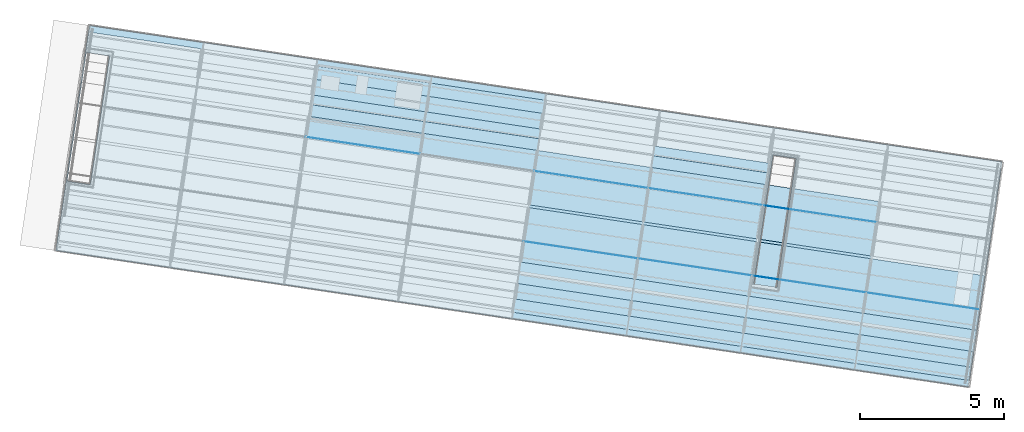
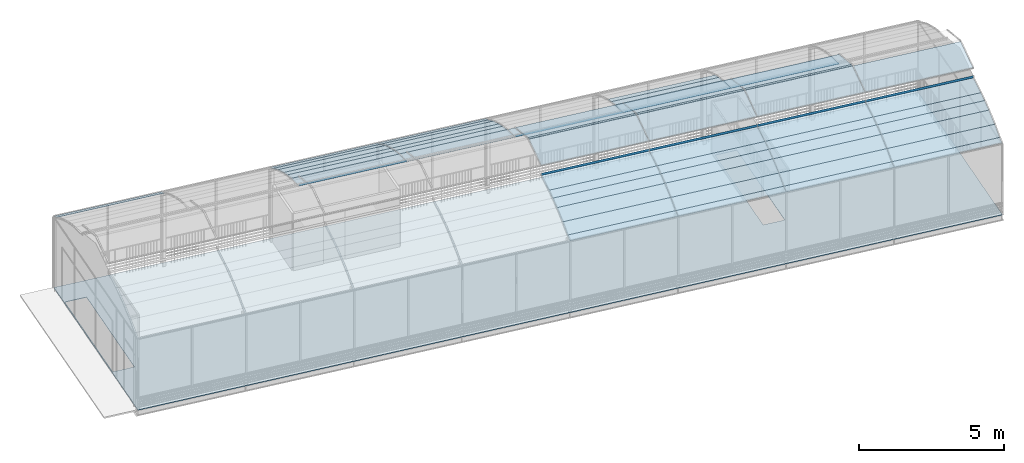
# One storey, part 26 of 34: 60 plates, 1 slab, 2 openings, 1 element without a shape of its own.
"""IFC4 building model written with IfcOpenShell, lengths in metres."""

import ifcopenshell
import ifcopenshell.guid

model = None  # the IFC model being written
_history = None  # IfcOwnerHistory: only IFC2X3 demands one
_inside = {}  # id of a spatial element -> (the spatial element, [elements in it])
_under = {}  # id of a project, library or spatial element -> (it, [spatial elements below it])
_declared = {}  # id of a project -> (the project, [libraries it declares])
_typed = {}  # id of a type object -> (the type object, [elements of that type])
_made_of = {}  # id of a material, layer set ... -> (it, [elements and type objects made of it])


def new_model(schema):
    """Start an empty IFC model of exactly this schema.

    Asked for "IFC4X3", IfcOpenShell would pick the latest addendum, in which some entities
    have other attributes; the version numbers below select the first issue.
    IFC2X3 requires an IfcOwnerHistory on every rooted entity: one is made here for all.
    """
    global model, _history
    if schema == "IFC4X3":
        model = ifcopenshell.file(schema_version=(4, 3, 0, 0))
    else:
        model = ifcopenshell.file(schema=schema)
    _inside.clear()
    _under.clear()
    _declared.clear()
    _typed.clear()
    _made_of.clear()
    _history = None
    if model.schema == "IFC2X3":
        org = make("IfcOrganization", Name="unknown")
        user = make(
            "IfcPersonAndOrganization",
            ThePerson=make("IfcPerson", FamilyName="unknown"),
            TheOrganization=org,
        )
        app = make(
            "IfcApplication",
            ApplicationDeveloper=org,
            Version="unknown",
            ApplicationFullName="unknown",
            ApplicationIdentifier="unknown",
        )
        _history = make(
            "IfcOwnerHistory",
            OwningUser=user,
            OwningApplication=app,
            ChangeAction="ADDED",
            CreationDate=0,
        )
    return model


def make(cls, **values):
    """One entity of the class cls with the attributes given. An attribute that is None is left unset."""
    return model.create_entity(
        cls, **{name: value for name, value in values.items() if value is not None}
    )


def rooted(cls, **values):
    """An entity with a GlobalId (a new one), such as an element, a storey or a relation."""
    return make(cls, GlobalId=ifcopenshell.guid.new(), OwnerHistory=_history, **values)


def si_unit(unit_type, name, prefix=None):
    """IfcSIUnit, for example si_unit("LENGTHUNIT", "METRE", prefix="MILLI")."""
    return make("IfcSIUnit", UnitType=unit_type, Prefix=prefix, Name=name)


def assignment(units):
    """IfcUnitAssignment: the units of a project."""
    return None if units is None else make("IfcUnitAssignment", Units=units)


def point(xyz):
    """IfcCartesianPoint."""
    return None if xyz is None else make("IfcCartesianPoint", Coordinates=xyz)


def direction(xyz):
    """IfcDirection."""
    return None if xyz is None else make("IfcDirection", DirectionRatios=xyz)


def frame(location, z_axis=None, x_axis=None):
    """IfcAxis2Placement3D, a coordinate frame: its origin and axes. An axis left out is left unset."""
    return make(
        "IfcAxis2Placement3D",
        Location=point(location),
        Axis=direction(z_axis),
        RefDirection=direction(x_axis),
    )


def origin_with_axes():
    """The frame at (0, 0, 0) with the z axis (0, 0, 1) and the x axis (1, 0, 0) written out."""
    return frame((0.0, 0.0, 0.0), z_axis=(0.0, 0.0, 1.0), x_axis=(1.0, 0.0, 0.0))


def place(relative_to, where):
    """IfcLocalPlacement: puts the frame where relative to a parent placement (None: the world)."""
    return make(
        "IfcLocalPlacement", PlacementRelTo=relative_to, RelativePlacement=where
    )


def context(
    kind, dimensions, precision=None, world=None, true_north=None, identifier=None
):
    """IfcGeometricRepresentationContext, for example the 3D "Model" context."""
    return make(
        "IfcGeometricRepresentationContext",
        ContextIdentifier=identifier,
        ContextType=kind,
        CoordinateSpaceDimension=dimensions,
        Precision=precision,
        WorldCoordinateSystem=world,
        TrueNorth=true_north,
    )


def subcontext(parent, identifier, kind, view, scale=None):
    """IfcGeometricRepresentationSubContext, for example "Body" below "Model"."""
    return make(
        "IfcGeometricRepresentationSubContext",
        ContextIdentifier=identifier,
        ContextType=kind,
        ParentContext=parent,
        TargetScale=scale,
        TargetView=view,
    )


def project(units=None, contexts=None):
    """IfcProject with its units and contexts."""
    return rooted(
        "IfcProject",
        Name="project",
        RepresentationContexts=contexts,
        UnitsInContext=assignment(units),
    )


def spatial(cls, under=None, at=None, **own):
    """A site, building, storey or space (cls), placed at a placement, below another one or the project."""
    s = rooted(cls, ObjectPlacement=at, **own)
    if under is not None:
        _under.setdefault(under.id(), (under, []))[1].append(s)
    return s


def polyline(points):
    """IfcPolyline through the points."""
    return make("IfcPolyline", Points=[point(p) for p in points])


def outline(outer, holes=None, kind="AREA"):
    """IfcArbitraryClosedProfileDef: a profile drawn as a closed curve; with holes, ...WithVoids."""
    if holes is None:
        return make("IfcArbitraryClosedProfileDef", ProfileType=kind, OuterCurve=outer)
    return make(
        "IfcArbitraryProfileDefWithVoids",
        ProfileType=kind,
        OuterCurve=outer,
        InnerCurves=holes,
    )


def extrude(swept, where, along, depth):
    """IfcExtrudedAreaSolid: the profile swept, set in the frame where, extruded along a direction by depth."""
    return make(
        "IfcExtrudedAreaSolid",
        SweptArea=swept,
        Position=where,
        ExtrudedDirection=direction(along),
        Depth=depth,
    )


def shape(context_of_items, identifier, shape_type, items):
    """IfcShapeRepresentation: the items that make up one representation, for example the "Body"."""
    return make(
        "IfcShapeRepresentation",
        ContextOfItems=context_of_items,
        RepresentationIdentifier=identifier,
        RepresentationType=shape_type,
        Items=items,
    )


def material(Name=None, Category=None):
    """IfcMaterial."""
    return make("IfcMaterial", Name=Name, Category=Category)


def made_of(thing, what):
    """Note that an element or type object is made of a material, layer set ...; save() writes the relation."""
    if what is not None:
        _made_of.setdefault(what.id(), (what, []))[1].append(thing)
    return thing


def element(
    cls,
    number,
    at=None,
    inside=None,
    cuts=None,
    type_object=None,
    material=None,
    context=None,
    identifier="Body",
    shape_type=None,
    held_by="IfcProductDefinitionShape",
    body=None,
    shapes=None,
    **own,
):
    """One element of the class cls, such as IfcWall. Its Tag is "e" and its number.

    at: its placement. inside: the storey or other place that contains it. cuts: it is an
    opening in that element (IfcRelVoidsElement). A single representation is given by context,
    identifier, shape_type and body (its items); several are given by shapes. held_by: the class
    of the entity that holds the representations. save() writes the other relations.
    """
    e = rooted(cls, Tag="e%d" % number, ObjectPlacement=at, **own)
    if body is not None:
        shapes = [shape(context, identifier, shape_type, body)]
    if shapes is not None:
        e.Representation = make(held_by, Representations=shapes)
    if inside is not None:
        _inside.setdefault(inside.id(), (inside, []))[1].append(e)
    if cuts is not None:
        rooted(
            "IfcRelVoidsElement", RelatingBuildingElement=cuts, RelatedOpeningElement=e
        )
    if type_object is not None:
        _typed.setdefault(type_object.id(), (type_object, []))[1].append(e)
    return made_of(e, material)


def aggregate(whole, parts):
    """IfcRelAggregates: a whole, such as a stair, and the parts it consists of."""
    return rooted("IfcRelAggregates", RelatingObject=whole, RelatedObjects=parts)


def save(model, path):
    """Write the relations noted so far, then the file.

    IfcRelAggregates (storeys below a building ...), IfcRelContainedInSpatialStructure (elements
    in a storey), IfcRelDefinesByType, IfcRelAssociatesMaterial and IfcRelDeclares: one each for
    every whole, place, type object, material and project.
    """
    for whole, parts in _under.values():
        aggregate(whole, parts)
    for where, things in _inside.values():
        rooted(
            "IfcRelContainedInSpatialStructure",
            RelatedElements=things,
            RelatingStructure=where,
        )
    for kind, things in _typed.values():
        rooted("IfcRelDefinesByType", RelatedObjects=things, RelatingType=kind)
    for what, things in _made_of.values():
        rooted("IfcRelAssociatesMaterial", RelatedObjects=things, RelatingMaterial=what)
    for by, libraries in _declared.values():
        rooted("IfcRelDeclares", RelatingContext=by, RelatedDefinitions=libraries)
    model.write(path)


model = new_model("IFC4")

# Units and contexts
model_context = context("Model", 3, precision=1e-05, world=origin_with_axes(), true_north=direction((0.0, 1.0)))
body_context = subcontext(model_context, "Body", "Model", "MODEL_VIEW")
ifc_project = project(units=[si_unit("AREAUNIT", "SQUARE_METRE"), si_unit("VOLUMEUNIT", "CUBIC_METRE"), si_unit("LENGTHUNIT", "METRE")], contexts=[model_context])

# Site, building, storey
site_placement = place(None, origin_with_axes())
site = spatial("IfcSite", under=ifc_project, at=site_placement, Name="Lares · Rua das Mercês · artigo 4771")
building_placement = place(site_placement, frame((15.0, 9.7, 14.65), z_axis=(0.0, 0.0, 1.0), x_axis=(0.989015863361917, -0.147809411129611, 0.0)))
building = spatial("IfcBuilding", under=site, at=building_placement, Name="Casa Sobreposta")
storey_placement = place(building_placement, frame((0.0, 0.0, 3.24), z_axis=(0.0, 0.0, 1.0), x_axis=(1.0, 0.0, 0.0)))
storey = spatial("IfcBuildingStorey", under=building, at=storey_placement, Name="01 · Jardim de inverno", Elevation=17.89)

# Slab, openings
ifc_material_1 = material(Name="OSB", Category="wood")
slab_placement = place(storey_placement, frame((0.0, 0.0, -0.032), z_axis=(0.0, 0.0, 1.0), x_axis=(1.0, 0.0, 0.0)))
slab = element("IfcSlab", 1, at=slab_placement, inside=storey, material=ifc_material_1, Name="OSB estrutural · 20 mm", PredefinedType="FLOOR", context=body_context, shape_type="SweptSolid", body=[
    extrude(outline(polyline([(32.0, -1.5), (32.0, 6.4), (0.0, 6.4), (0.0, -1.5), (32.0, -1.5)])), origin_with_axes(), (0.0, 0.0, 1.0), 0.02),
])
opening_1_placement = place(slab_placement, frame((0.0, 0.0, -0.00999999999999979), z_axis=(0.0, 0.0, 1.0), x_axis=(1.0, 0.0, 0.0)))
element("IfcOpeningElement", 2, at=opening_1_placement, cuts=slab, Name="Vão de escada 1 · OSB estrutural · 20 mm", PredefinedType="OPENING", context=body_context, shape_type="SweptSolid", body=[
    extrude(outline(polyline([(0.04, 0.9475), (0.84, 0.9475), (0.84, 5.4525), (0.04, 5.4525), (0.04, 0.9475)])), origin_with_axes(), (0.0, 0.0, 1.0), 0.04),
])
opening_2_placement = place(slab_placement, frame((0.0, 0.0, -0.00999999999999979), z_axis=(0.0, 0.0, 1.0), x_axis=(1.0, 0.0, 0.0)))
element("IfcOpeningElement", 3, at=opening_2_placement, cuts=slab, Name="Vão de escada 2 · OSB estrutural · 20 mm", PredefinedType="OPENING", context=body_context, shape_type="SweptSolid", body=[
    extrude(outline(polyline([(24.91, 0.9475), (24.91, 5.4525), (24.11, 5.4525), (24.11, 0.9475), (24.91, 0.9475)])), origin_with_axes(), (0.0, 0.0, 1.0), 0.04),
])

# Roof, plates
ifc_material_2 = material(Name="Policarbonato alveolar 16 mm · translúcido", Category="plastic")
roof_placement = place(storey_placement, frame((0.0, 0.0, -3.24), z_axis=(0.0, 0.0, 1.0), x_axis=(1.0, 0.0, 0.0)))
roof = element("IfcRoof", 4, at=roof_placement, inside=storey, material=ifc_material_2, Name="Cobertura translúcida da estufa", PredefinedType="BARREL_ROOF")
plate_1_placement = place(roof_placement, frame((16.0, 0.0, 0.0), z_axis=(1.0, 0.0, 0.0), x_axis=(0.0, 1.0, 0.0)))
plate_1 = element("IfcPlate", 5, at=plate_1_placement, material=ifc_material_2, Name="Cobertura 5.1", PredefinedType="SHEET", context=body_context, shape_type="SweptSolid", body=[
    extrude(outline(polyline([(-1.5, 6.23430000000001), (-1.26765509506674, 6.32392631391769), (-1.26765509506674, 6.31592631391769), (-1.5, 6.22630000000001), (-1.5, 6.23430000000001)])), origin_with_axes(), (0.0, 0.0, 1.0), 4.0),
])
plate_2_placement = place(roof_placement, frame((20.0, 0.0, 0.0), z_axis=(1.0, 0.0, 0.0), x_axis=(0.0, 1.0, 0.0)))
plate_2 = element("IfcPlate", 6, at=plate_2_placement, material=ifc_material_2, Name="Cobertura 6.1", PredefinedType="SHEET", context=body_context, shape_type="SweptSolid", body=[
    extrude(outline(polyline([(-1.5, 6.23430000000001), (-1.26765509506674, 6.32392631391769), (-1.26765509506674, 6.31592631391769), (-1.5, 6.22630000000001), (-1.5, 6.23430000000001)])), origin_with_axes(), (0.0, 0.0, 1.0), 4.0),
])
plate_3_placement = place(roof_placement, frame((24.0, 0.0, 0.0), z_axis=(1.0, 0.0, 0.0), x_axis=(0.0, 1.0, 0.0)))
plate_3 = element("IfcPlate", 7, at=plate_3_placement, material=ifc_material_2, Name="Cobertura 7.1", PredefinedType="SHEET", context=body_context, shape_type="SweptSolid", body=[
    extrude(outline(polyline([(-1.5, 6.23430000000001), (-1.26765509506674, 6.32392631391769), (-1.26765509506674, 6.31592631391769), (-1.5, 6.22630000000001), (-1.5, 6.23430000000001)])), origin_with_axes(), (0.0, 0.0, 1.0), 4.0),
])
plate_4_placement = place(roof_placement, frame((28.0, 0.0, 0.0), z_axis=(1.0, 0.0, 0.0), x_axis=(0.0, 1.0, 0.0)))
plate_4 = element("IfcPlate", 8, at=plate_4_placement, material=ifc_material_2, Name="Cobertura 8.1", PredefinedType="SHEET", context=body_context, shape_type="SweptSolid", body=[
    extrude(outline(polyline([(-1.5, 6.23430000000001), (-1.26765509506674, 6.32392631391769), (-1.26765509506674, 6.31592631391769), (-1.5, 6.22630000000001), (-1.5, 6.23430000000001)])), origin_with_axes(), (0.0, 0.0, 1.0), 4.0),
])
plate_5_placement = place(roof_placement, frame((16.0, 0.0, 0.0), z_axis=(1.0, 0.0, 0.0), x_axis=(0.0, 1.0, 0.0)))
plate_5 = element("IfcPlate", 9, at=plate_5_placement, material=ifc_material_2, Name="Cobertura 5.2", PredefinedType="SHEET", context=body_context, shape_type="SweptSolid", body=[
    extrude(outline(polyline([(-1.26765509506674, 6.32392631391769), (-0.803062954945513, 6.57613537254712), (-0.803062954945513, 6.56813537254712), (-1.26765509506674, 6.31592631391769), (-1.26765509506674, 6.32392631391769)])), origin_with_axes(), (0.0, 0.0, 1.0), 4.0),
])
plate_6_placement = place(roof_placement, frame((20.0, 0.0, 0.0), z_axis=(1.0, 0.0, 0.0), x_axis=(0.0, 1.0, 0.0)))
plate_6 = element("IfcPlate", 10, at=plate_6_placement, material=ifc_material_2, Name="Cobertura 6.2", PredefinedType="SHEET", context=body_context, shape_type="SweptSolid", body=[
    extrude(outline(polyline([(-1.26765509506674, 6.32392631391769), (-0.803062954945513, 6.57613537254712), (-0.803062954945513, 6.56813537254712), (-1.26765509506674, 6.31592631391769), (-1.26765509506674, 6.32392631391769)])), origin_with_axes(), (0.0, 0.0, 1.0), 4.0),
])
plate_7_placement = place(roof_placement, frame((24.0, 0.0, 0.0), z_axis=(1.0, 0.0, 0.0), x_axis=(0.0, 1.0, 0.0)))
plate_7 = element("IfcPlate", 11, at=plate_7_placement, material=ifc_material_2, Name="Cobertura 7.2", PredefinedType="SHEET", context=body_context, shape_type="SweptSolid", body=[
    extrude(outline(polyline([(-1.26765509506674, 6.32392631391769), (-0.803062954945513, 6.57613537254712), (-0.803062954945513, 6.56813537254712), (-1.26765509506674, 6.31592631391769), (-1.26765509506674, 6.32392631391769)])), origin_with_axes(), (0.0, 0.0, 1.0), 4.0),
])
plate_8_placement = place(roof_placement, frame((28.0, 0.0, 0.0), z_axis=(1.0, 0.0, 0.0), x_axis=(0.0, 1.0, 0.0)))
plate_8 = element("IfcPlate", 12, at=plate_8_placement, material=ifc_material_2, Name="Cobertura 8.2", PredefinedType="SHEET", context=body_context, shape_type="SweptSolid", body=[
    extrude(outline(polyline([(-1.26765509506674, 6.32392631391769), (-0.803062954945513, 6.57613537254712), (-0.803062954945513, 6.56813537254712), (-1.26765509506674, 6.31592631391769), (-1.26765509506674, 6.32392631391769)])), origin_with_axes(), (0.0, 0.0, 1.0), 4.0),
])
plate_9_placement = place(roof_placement, frame((16.0, 0.0, 0.0), z_axis=(1.0, 0.0, 0.0), x_axis=(0.0, 1.0, 0.0)))
plate_9 = element("IfcPlate", 13, at=plate_9_placement, material=ifc_material_2, Name="Cobertura 5.3", PredefinedType="SHEET", context=body_context, shape_type="SweptSolid", body=[
    extrude(outline(polyline([(-0.803062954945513, 6.57613537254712), (-0.256488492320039, 6.81570306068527), (-0.256488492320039, 6.80770306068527), (-0.803062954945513, 6.56813537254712), (-0.803062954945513, 6.57613537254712)])), origin_with_axes(), (0.0, 0.0, 1.0), 4.0),
])
plate_10_placement = place(roof_placement, frame((20.0, 0.0, 0.0), z_axis=(1.0, 0.0, 0.0), x_axis=(0.0, 1.0, 0.0)))
plate_10 = element("IfcPlate", 14, at=plate_10_placement, material=ifc_material_2, Name="Cobertura 6.3", PredefinedType="SHEET", context=body_context, shape_type="SweptSolid", body=[
    extrude(outline(polyline([(-0.803062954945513, 6.57613537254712), (-0.256488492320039, 6.81570306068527), (-0.256488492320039, 6.80770306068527), (-0.803062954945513, 6.56813537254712), (-0.803062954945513, 6.57613537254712)])), origin_with_axes(), (0.0, 0.0, 1.0), 4.0),
])
plate_11_placement = place(roof_placement, frame((24.0, 0.0, 0.0), z_axis=(1.0, 0.0, 0.0), x_axis=(0.0, 1.0, 0.0)))
plate_11 = element("IfcPlate", 15, at=plate_11_placement, material=ifc_material_2, Name="Cobertura 7.3", PredefinedType="SHEET", context=body_context, shape_type="SweptSolid", body=[
    extrude(outline(polyline([(-0.803062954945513, 6.57613537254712), (-0.256488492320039, 6.81570306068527), (-0.256488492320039, 6.80770306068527), (-0.803062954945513, 6.56813537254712), (-0.803062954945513, 6.57613537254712)])), origin_with_axes(), (0.0, 0.0, 1.0), 4.0),
])
plate_12_placement = place(roof_placement, frame((28.0, 0.0, 0.0), z_axis=(1.0, 0.0, 0.0), x_axis=(0.0, 1.0, 0.0)))
plate_12 = element("IfcPlate", 16, at=plate_12_placement, material=ifc_material_2, Name="Cobertura 8.3", PredefinedType="SHEET", context=body_context, shape_type="SweptSolid", body=[
    extrude(outline(polyline([(-0.803062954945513, 6.57613537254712), (-0.256488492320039, 6.81570306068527), (-0.256488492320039, 6.80770306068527), (-0.803062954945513, 6.56813537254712), (-0.803062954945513, 6.57613537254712)])), origin_with_axes(), (0.0, 0.0, 1.0), 4.0),
])
plate_13_placement = place(roof_placement, frame((16.0, 0.0, 0.0), z_axis=(1.0, 0.0, 0.0), x_axis=(0.0, 1.0, 0.0)))
plate_13 = element("IfcPlate", 17, at=plate_13_placement, material=ifc_material_2, Name="Cobertura 5.4", PredefinedType="SHEET", context=body_context, shape_type="SweptSolid", body=[
    extrude(outline(polyline([(-0.256488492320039, 6.81570306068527), (0.142348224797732, 6.95669813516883), (0.142348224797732, 6.94869813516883), (-0.256488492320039, 6.80770306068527), (-0.256488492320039, 6.81570306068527)])), origin_with_axes(), (0.0, 0.0, 1.0), 4.0),
])
plate_14_placement = place(roof_placement, frame((20.0, 0.0, 0.0), z_axis=(1.0, 0.0, 0.0), x_axis=(0.0, 1.0, 0.0)))
plate_14 = element("IfcPlate", 18, at=plate_14_placement, material=ifc_material_2, Name="Cobertura 6.4", PredefinedType="SHEET", context=body_context, shape_type="SweptSolid", body=[
    extrude(outline(polyline([(-0.256488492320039, 6.81570306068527), (0.142348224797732, 6.95669813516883), (0.142348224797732, 6.94869813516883), (-0.256488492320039, 6.80770306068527), (-0.256488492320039, 6.81570306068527)])), origin_with_axes(), (0.0, 0.0, 1.0), 4.0),
])
plate_15_placement = place(roof_placement, frame((24.0, 0.0, 0.0), z_axis=(1.0, 0.0, 0.0), x_axis=(0.0, 1.0, 0.0)))
plate_15 = element("IfcPlate", 19, at=plate_15_placement, material=ifc_material_2, Name="Cobertura 7.4", PredefinedType="SHEET", context=body_context, shape_type="SweptSolid", body=[
    extrude(outline(polyline([(-0.256488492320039, 6.81570306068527), (0.142348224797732, 6.95669813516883), (0.142348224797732, 6.94869813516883), (-0.256488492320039, 6.80770306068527), (-0.256488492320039, 6.81570306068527)])), origin_with_axes(), (0.0, 0.0, 1.0), 4.0),
])
plate_16_placement = place(roof_placement, frame((28.0, 0.0, 0.0), z_axis=(1.0, 0.0, 0.0), x_axis=(0.0, 1.0, 0.0)))
plate_16 = element("IfcPlate", 20, at=plate_16_placement, material=ifc_material_2, Name="Cobertura 8.4", PredefinedType="SHEET", context=body_context, shape_type="SweptSolid", body=[
    extrude(outline(polyline([(-0.256488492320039, 6.81570306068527), (0.142348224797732, 6.95669813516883), (0.142348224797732, 6.94869813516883), (-0.256488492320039, 6.80770306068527), (-0.256488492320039, 6.81570306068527)])), origin_with_axes(), (0.0, 0.0, 1.0), 4.0),
])
plate_17_placement = place(roof_placement, frame((16.0, 0.0, 0.0), z_axis=(1.0, 0.0, 0.0), x_axis=(0.0, 1.0, 0.0)))
plate_17 = element("IfcPlate", 21, at=plate_17_placement, material=ifc_material_2, Name="Cobertura 5.5", PredefinedType="SHEET", context=body_context, shape_type="SweptSolid", body=[
    extrude(outline(polyline([(0.142348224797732, 6.95669813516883), (0.493171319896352, 7.05943931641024), (0.493171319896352, 7.05143931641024), (0.142348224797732, 6.94869813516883), (0.142348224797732, 6.95669813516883)])), origin_with_axes(), (0.0, 0.0, 1.0), 4.0),
])
plate_18_placement = place(roof_placement, frame((20.0, 0.0, 0.0), z_axis=(1.0, 0.0, 0.0), x_axis=(0.0, 1.0, 0.0)))
plate_18 = element("IfcPlate", 22, at=plate_18_placement, material=ifc_material_2, Name="Cobertura 6.5", PredefinedType="SHEET", context=body_context, shape_type="SweptSolid", body=[
    extrude(outline(polyline([(0.142348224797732, 6.95669813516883), (0.493171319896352, 7.05943931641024), (0.493171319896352, 7.05143931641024), (0.142348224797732, 6.94869813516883), (0.142348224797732, 6.95669813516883)])), origin_with_axes(), (0.0, 0.0, 1.0), 4.0),
])
plate_19_placement = place(roof_placement, frame((24.0, 0.0, 0.0), z_axis=(1.0, 0.0, 0.0), x_axis=(0.0, 1.0, 0.0)))
plate_19 = element("IfcPlate", 23, at=plate_19_placement, material=ifc_material_2, Name="Cobertura 7.5", PredefinedType="SHEET", context=body_context, shape_type="SweptSolid", body=[
    extrude(outline(polyline([(0.142348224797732, 6.95669813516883), (0.493171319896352, 7.05943931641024), (0.493171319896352, 7.05143931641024), (0.142348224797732, 6.94869813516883), (0.142348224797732, 6.95669813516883)])), origin_with_axes(), (0.0, 0.0, 1.0), 4.0),
])
plate_20_placement = place(roof_placement, frame((28.0, 0.0, 0.0), z_axis=(1.0, 0.0, 0.0), x_axis=(0.0, 1.0, 0.0)))
plate_20 = element("IfcPlate", 24, at=plate_20_placement, material=ifc_material_2, Name="Cobertura 8.5", PredefinedType="SHEET", context=body_context, shape_type="SweptSolid", body=[
    extrude(outline(polyline([(0.142348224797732, 6.95669813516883), (0.493171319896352, 7.05943931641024), (0.493171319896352, 7.05143931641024), (0.142348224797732, 6.94869813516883), (0.142348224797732, 6.95669813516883)])), origin_with_axes(), (0.0, 0.0, 1.0), 4.0),
])
plate_21_placement = place(roof_placement, frame((16.0, 0.0, 0.0), z_axis=(1.0, 0.0, 0.0), x_axis=(0.0, 1.0, 0.0)))
plate_21 = element("IfcPlate", 25, at=plate_21_placement, material=ifc_material_2, Name="Cobertura 5.6", PredefinedType="SHEET", context=body_context, shape_type="SweptSolid", body=[
    extrude(outline(polyline([(0.493171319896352, 7.05943931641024), (1.21440957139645, 7.21329402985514), (1.21440957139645, 7.20529402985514), (0.493171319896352, 7.05143931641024), (0.493171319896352, 7.05943931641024)])), origin_with_axes(), (0.0, 0.0, 1.0), 4.0),
])
plate_22_placement = place(roof_placement, frame((20.0, 0.0, 0.0), z_axis=(1.0, 0.0, 0.0), x_axis=(0.0, 1.0, 0.0)))
plate_22 = element("IfcPlate", 26, at=plate_22_placement, material=ifc_material_2, Name="Cobertura 6.6", PredefinedType="SHEET", context=body_context, shape_type="SweptSolid", body=[
    extrude(outline(polyline([(0.493171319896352, 7.05943931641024), (1.21440957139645, 7.21329402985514), (1.21440957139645, 7.20529402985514), (0.493171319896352, 7.05143931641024), (0.493171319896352, 7.05943931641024)])), origin_with_axes(), (0.0, 0.0, 1.0), 4.0),
])
plate_23_placement = place(roof_placement, frame((24.0, 0.0, 0.0), z_axis=(1.0, 0.0, 0.0), x_axis=(0.0, 1.0, 0.0)))
plate_23 = element("IfcPlate", 27, at=plate_23_placement, material=ifc_material_2, Name="Cobertura 7.6", PredefinedType="SHEET", context=body_context, shape_type="SweptSolid", body=[
    extrude(outline(polyline([(0.493171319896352, 7.05943931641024), (1.21440957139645, 7.21329402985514), (1.21440957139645, 7.20529402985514), (0.493171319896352, 7.05143931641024), (0.493171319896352, 7.05943931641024)])), origin_with_axes(), (0.0, 0.0, 1.0), 4.0),
])
plate_24_placement = place(roof_placement, frame((28.0, 0.0, 0.0), z_axis=(1.0, 0.0, 0.0), x_axis=(0.0, 1.0, 0.0)))
plate_24 = element("IfcPlate", 28, at=plate_24_placement, material=ifc_material_2, Name="Cobertura 8.6", PredefinedType="SHEET", context=body_context, shape_type="SweptSolid", body=[
    extrude(outline(polyline([(0.493171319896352, 7.05943931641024), (1.21440957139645, 7.21329402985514), (1.21440957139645, 7.20529402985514), (0.493171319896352, 7.05143931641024), (0.493171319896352, 7.05943931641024)])), origin_with_axes(), (0.0, 0.0, 1.0), 4.0),
])
plate_25_placement = place(roof_placement, frame((16.0, 0.0, 0.0), z_axis=(1.0, 0.0, 0.0), x_axis=(0.0, 1.0, 0.0)))
plate_25 = element("IfcPlate", 29, at=plate_25_placement, material=ifc_material_2, Name="Cobertura 5.7", PredefinedType="SHEET", context=body_context, shape_type="SweptSolid", body=[
    extrude(outline(polyline([(1.21440957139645, 7.21329402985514), (1.22042020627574, 7.30067689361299), (1.22042020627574, 7.29267689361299), (1.21440957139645, 7.20529402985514), (1.21440957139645, 7.21329402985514)])), origin_with_axes(), (0.0, 0.0, 1.0), 4.0),
])
plate_26_placement = place(roof_placement, frame((20.0, 0.0, 0.0), z_axis=(1.0, 0.0, 0.0), x_axis=(0.0, 1.0, 0.0)))
plate_26 = element("IfcPlate", 30, at=plate_26_placement, material=ifc_material_2, Name="Cobertura 6.7", PredefinedType="SHEET", context=body_context, shape_type="SweptSolid", body=[
    extrude(outline(polyline([(1.21440957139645, 7.21329402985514), (1.22042020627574, 7.30067689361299), (1.22042020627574, 7.29267689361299), (1.21440957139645, 7.20529402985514), (1.21440957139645, 7.21329402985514)])), origin_with_axes(), (0.0, 0.0, 1.0), 4.0),
])
plate_27_placement = place(roof_placement, frame((24.0, 0.0, 0.0), z_axis=(1.0, 0.0, 0.0), x_axis=(0.0, 1.0, 0.0)))
plate_27 = element("IfcPlate", 31, at=plate_27_placement, material=ifc_material_2, Name="Cobertura 7.7", PredefinedType="SHEET", context=body_context, shape_type="SweptSolid", body=[
    extrude(outline(polyline([(1.21440957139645, 7.21329402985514), (1.22042020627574, 7.30067689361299), (1.22042020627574, 7.29267689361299), (1.21440957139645, 7.20529402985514), (1.21440957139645, 7.21329402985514)])), origin_with_axes(), (0.0, 0.0, 1.0), 4.0),
])
plate_28_placement = place(roof_placement, frame((28.0, 0.0, 0.0), z_axis=(1.0, 0.0, 0.0), x_axis=(0.0, 1.0, 0.0)))
plate_28 = element("IfcPlate", 32, at=plate_28_placement, material=ifc_material_2, Name="Cobertura 8.7", PredefinedType="SHEET", context=body_context, shape_type="SweptSolid", body=[
    extrude(outline(polyline([(1.21440957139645, 7.21329402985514), (1.22042020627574, 7.30067689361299), (1.22042020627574, 7.29267689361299), (1.21440957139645, 7.20529402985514), (1.21440957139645, 7.21329402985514)])), origin_with_axes(), (0.0, 0.0, 1.0), 4.0),
])
plate_29_placement = place(roof_placement, frame((16.0, 0.0, 0.0), z_axis=(1.0, 0.0, 0.0), x_axis=(0.0, 1.0, 0.0)))
plate_29 = element("IfcPlate", 33, at=plate_29_placement, material=ifc_material_2, Name="Cobertura 5.8", PredefinedType="SHEET", context=body_context, shape_type="SweptSolid", body=[
    extrude(outline(polyline([(1.22042020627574, 7.62067689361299), (2.40274082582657, 7.96518238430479), (2.40274082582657, 7.95718238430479), (1.22042020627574, 7.61267689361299), (1.22042020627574, 7.62067689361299)])), origin_with_axes(), (0.0, 0.0, 1.0), 4.0),
])
plate_30_placement = place(roof_placement, frame((20.0, 0.0, 0.0), z_axis=(1.0, 0.0, 0.0), x_axis=(0.0, 1.0, 0.0)))
plate_30 = element("IfcPlate", 34, at=plate_30_placement, material=ifc_material_2, Name="Cobertura 6.8", PredefinedType="SHEET", context=body_context, shape_type="SweptSolid", body=[
    extrude(outline(polyline([(1.22042020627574, 7.62067689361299), (2.40274082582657, 7.96518238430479), (2.40274082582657, 7.95718238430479), (1.22042020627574, 7.61267689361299), (1.22042020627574, 7.62067689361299)])), origin_with_axes(), (0.0, 0.0, 1.0), 4.0),
])
plate_31_placement = place(roof_placement, frame((24.0, 0.0, 0.0), z_axis=(1.0, 0.0, 0.0), x_axis=(0.0, 1.0, 0.0)))
plate_31 = element("IfcPlate", 35, at=plate_31_placement, material=ifc_material_2, Name="Cobertura 7.8", PredefinedType="SHEET", context=body_context, shape_type="SweptSolid", body=[
    extrude(outline(polyline([(1.22042020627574, 7.62067689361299), (2.40274082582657, 7.96518238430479), (2.40274082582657, 7.95718238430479), (1.22042020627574, 7.61267689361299), (1.22042020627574, 7.62067689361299)])), origin_with_axes(), (0.0, 0.0, 1.0), 4.0),
])
plate_32_placement = place(roof_placement, frame((28.0, 0.0, 0.0), z_axis=(1.0, 0.0, 0.0), x_axis=(0.0, 1.0, 0.0)))
plate_32 = element("IfcPlate", 36, at=plate_32_placement, material=ifc_material_2, Name="Cobertura 8.8", PredefinedType="SHEET", context=body_context, shape_type="SweptSolid", body=[
    extrude(outline(polyline([(1.22042020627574, 7.62067689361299), (2.40274082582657, 7.96518238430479), (2.40274082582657, 7.95718238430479), (1.22042020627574, 7.61267689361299), (1.22042020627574, 7.62067689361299)])), origin_with_axes(), (0.0, 0.0, 1.0), 4.0),
])
plate_33_placement = place(roof_placement, frame((16.0, 0.0, 0.0), z_axis=(1.0, 0.0, 0.0), x_axis=(0.0, 1.0, 0.0)))
plate_33 = element("IfcPlate", 37, at=plate_33_placement, material=ifc_material_2, Name="Cobertura 5.9", PredefinedType="SHEET", context=body_context, shape_type="SweptSolid", body=[
    extrude(outline(polyline([(2.40274082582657, 7.96518238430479), (2.49770027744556, 7.96518238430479), (2.49770027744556, 7.95718238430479), (2.40274082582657, 7.95718238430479), (2.40274082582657, 7.96518238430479)])), origin_with_axes(), (0.0, 0.0, 1.0), 4.0),
])
plate_34_placement = place(roof_placement, frame((20.0, 0.0, 0.0), z_axis=(1.0, 0.0, 0.0), x_axis=(0.0, 1.0, 0.0)))
plate_34 = element("IfcPlate", 38, at=plate_34_placement, material=ifc_material_2, Name="Cobertura 6.9", PredefinedType="SHEET", context=body_context, shape_type="SweptSolid", body=[
    extrude(outline(polyline([(2.40274082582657, 7.96518238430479), (2.49770027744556, 7.96518238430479), (2.49770027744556, 7.95718238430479), (2.40274082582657, 7.95718238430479), (2.40274082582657, 7.96518238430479)])), origin_with_axes(), (0.0, 0.0, 1.0), 4.0),
])
plate_35_placement = place(roof_placement, frame((24.0, 0.0, 0.0), z_axis=(1.0, 0.0, 0.0), x_axis=(0.0, 1.0, 0.0)))
plate_35 = element("IfcPlate", 39, at=plate_35_placement, material=ifc_material_2, Name="Cobertura 7.9", PredefinedType="SHEET", context=body_context, shape_type="SweptSolid", body=[
    extrude(outline(polyline([(2.40274082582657, 7.96518238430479), (2.49770027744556, 7.96518238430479), (2.49770027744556, 7.95718238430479), (2.40274082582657, 7.95718238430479), (2.40274082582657, 7.96518238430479)])), origin_with_axes(), (0.0, 0.0, 1.0), 4.0),
])
plate_36_placement = place(roof_placement, frame((16.0, 0.0, 0.0), z_axis=(1.0, 0.0, 0.0), x_axis=(0.0, 1.0, 0.0)))
plate_36 = element("IfcPlate", 40, at=plate_36_placement, material=ifc_material_2, Name="Cobertura 5.10", PredefinedType="SHEET", context=body_context, shape_type="SweptSolid", body=[
    extrude(outline(polyline([(2.49770027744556, 7.96518238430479), (3.68002089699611, 7.62067689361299), (3.68002089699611, 7.61267689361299), (2.49770027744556, 7.95718238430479), (2.49770027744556, 7.96518238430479)])), origin_with_axes(), (0.0, 0.0, 1.0), 4.0),
])
plate_37_placement = place(roof_placement, frame((20.0, 0.0, 0.0), z_axis=(1.0, 0.0, 0.0), x_axis=(0.0, 1.0, 0.0)))
plate_37 = element("IfcPlate", 41, at=plate_37_placement, material=ifc_material_2, Name="Cobertura 6.10", PredefinedType="SHEET", context=body_context, shape_type="SweptSolid", body=[
    extrude(outline(polyline([(2.49770027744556, 7.96518238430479), (3.68002089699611, 7.62067689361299), (3.68002089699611, 7.61267689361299), (2.49770027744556, 7.95718238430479), (2.49770027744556, 7.96518238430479)])), origin_with_axes(), (0.0, 0.0, 1.0), 4.0),
])
plate_38_placement = place(roof_placement, frame((24.0, 0.0, 0.0), z_axis=(1.0, 0.0, 0.0), x_axis=(0.0, 1.0, 0.0)))
plate_38 = element("IfcPlate", 42, at=plate_38_placement, material=ifc_material_2, Name="Cobertura 7.10", PredefinedType="SHEET", context=body_context, shape_type="SweptSolid", body=[
    extrude(outline(polyline([(2.49770027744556, 7.96518238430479), (3.68002089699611, 7.62067689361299), (3.68002089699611, 7.61267689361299), (2.49770027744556, 7.95718238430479), (2.49770027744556, 7.96518238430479)])), origin_with_axes(), (0.0, 0.0, 1.0), 4.0),
])
plate_39_placement = place(roof_placement, frame((8.0, 0.0, 0.0), z_axis=(1.0, 0.0, 0.0), x_axis=(0.0, 1.0, 0.0)))
plate_39 = element("IfcPlate", 43, at=plate_39_placement, material=ifc_material_2, Name="Cobertura 3.11", PredefinedType="SHEET", context=body_context, shape_type="SweptSolid", body=[
    extrude(outline(polyline([(3.68002089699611, 7.30067689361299), (3.68573096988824, 7.21327919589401), (3.68573096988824, 7.20527919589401), (3.68002089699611, 7.29267689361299), (3.68002089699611, 7.30067689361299)])), origin_with_axes(), (0.0, 0.0, 1.0), 4.0),
])
plate_40_placement = place(roof_placement, frame((16.0, 0.0, 0.0), z_axis=(1.0, 0.0, 0.0), x_axis=(0.0, 1.0, 0.0)))
plate_40 = element("IfcPlate", 44, at=plate_40_placement, material=ifc_material_2, Name="Cobertura 5.11", PredefinedType="SHEET", context=body_context, shape_type="SweptSolid", body=[
    extrude(outline(polyline([(3.68002089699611, 7.30067689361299), (3.68573096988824, 7.21327919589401), (3.68573096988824, 7.20527919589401), (3.68002089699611, 7.29267689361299), (3.68002089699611, 7.30067689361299)])), origin_with_axes(), (0.0, 0.0, 1.0), 4.0),
])
plate_41_placement = place(roof_placement, frame((20.0, 0.0, 0.0), z_axis=(1.0, 0.0, 0.0), x_axis=(0.0, 1.0, 0.0)))
plate_41 = element("IfcPlate", 45, at=plate_41_placement, material=ifc_material_2, Name="Cobertura 6.11", PredefinedType="SHEET", context=body_context, shape_type="SweptSolid", body=[
    extrude(outline(polyline([(3.68002089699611, 7.30067689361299), (3.68573096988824, 7.21327919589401), (3.68573096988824, 7.20527919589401), (3.68002089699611, 7.29267689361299), (3.68002089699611, 7.30067689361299)])), origin_with_axes(), (0.0, 0.0, 1.0), 4.0),
])
plate_42_placement = place(roof_placement, frame((24.0, 0.0, 0.0), z_axis=(1.0, 0.0, 0.0), x_axis=(0.0, 1.0, 0.0)))
plate_42 = element("IfcPlate", 46, at=plate_42_placement, material=ifc_material_2, Name="Cobertura 7.11", PredefinedType="SHEET", context=body_context, shape_type="SweptSolid", body=[
    extrude(outline(polyline([(3.68002089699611, 7.30067689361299), (3.68573096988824, 7.21327919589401), (3.68573096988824, 7.20527919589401), (3.68002089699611, 7.29267689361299), (3.68002089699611, 7.30067689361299)])), origin_with_axes(), (0.0, 0.0, 1.0), 4.0),
])
plate_43_placement = place(roof_placement, frame((8.0, 0.0, 0.0), z_axis=(1.0, 0.0, 0.0), x_axis=(0.0, 1.0, 0.0)))
plate_43 = element("IfcPlate", 47, at=plate_43_placement, material=ifc_material_2, Name="Cobertura 3.12", PredefinedType="SHEET", context=body_context, shape_type="SweptSolid", body=[
    extrude(outline(polyline([(3.68573096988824, 7.21327919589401), (4.40690649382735, 7.05944154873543), (4.40690649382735, 7.05144154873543), (3.68573096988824, 7.20527919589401), (3.68573096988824, 7.21327919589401)])), origin_with_axes(), (0.0, 0.0, 1.0), 4.0),
])
plate_44_placement = place(roof_placement, frame((12.0, 0.0, 0.0), z_axis=(1.0, 0.0, 0.0), x_axis=(0.0, 1.0, 0.0)))
plate_44 = element("IfcPlate", 48, at=plate_44_placement, material=ifc_material_2, Name="Cobertura 4.12", PredefinedType="SHEET", context=body_context, shape_type="SweptSolid", body=[
    extrude(outline(polyline([(3.68573096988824, 7.21327919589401), (4.40690649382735, 7.05944154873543), (4.40690649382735, 7.05144154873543), (3.68573096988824, 7.20527919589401), (3.68573096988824, 7.21327919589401)])), origin_with_axes(), (0.0, 0.0, 1.0), 4.0),
])
plate_45_placement = place(roof_placement, frame((16.0, 0.0, 0.0), z_axis=(1.0, 0.0, 0.0), x_axis=(0.0, 1.0, 0.0)))
plate_45 = element("IfcPlate", 49, at=plate_45_placement, material=ifc_material_2, Name="Cobertura 5.12", PredefinedType="SHEET", context=body_context, shape_type="SweptSolid", body=[
    extrude(outline(polyline([(3.68573096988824, 7.21327919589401), (4.40690649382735, 7.05944154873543), (4.40690649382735, 7.05144154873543), (3.68573096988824, 7.20527919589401), (3.68573096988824, 7.21327919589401)])), origin_with_axes(), (0.0, 0.0, 1.0), 4.0),
])
plate_46_placement = place(roof_placement, frame((20.0, 0.0, 0.0), z_axis=(1.0, 0.0, 0.0), x_axis=(0.0, 1.0, 0.0)))
plate_46 = element("IfcPlate", 50, at=plate_46_placement, material=ifc_material_2, Name="Cobertura 6.12", PredefinedType="SHEET", context=body_context, shape_type="SweptSolid", body=[
    extrude(outline(polyline([(3.68573096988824, 7.21327919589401), (4.40690649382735, 7.05944154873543), (4.40690649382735, 7.05144154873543), (3.68573096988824, 7.20527919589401), (3.68573096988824, 7.21327919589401)])), origin_with_axes(), (0.0, 0.0, 1.0), 4.0),
])
plate_47_placement = place(roof_placement, frame((24.0, 0.0, 0.0), z_axis=(1.0, 0.0, 0.0), x_axis=(0.0, 1.0, 0.0)))
plate_47 = element("IfcPlate", 51, at=plate_47_placement, material=ifc_material_2, Name="Cobertura 7.12", PredefinedType="SHEET", context=body_context, shape_type="SweptSolid", body=[
    extrude(outline(polyline([(3.68573096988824, 7.21327919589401), (4.40690649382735, 7.05944154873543), (4.40690649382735, 7.05144154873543), (3.68573096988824, 7.20527919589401), (3.68573096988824, 7.21327919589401)])), origin_with_axes(), (0.0, 0.0, 1.0), 4.0),
])
plate_48_placement = place(roof_placement, frame((8.0, 0.0, 0.0), z_axis=(1.0, 0.0, 0.0), x_axis=(0.0, 1.0, 0.0)))
plate_48 = element("IfcPlate", 52, at=plate_48_placement, material=ifc_material_2, Name="Cobertura 3.13", PredefinedType="SHEET", context=body_context, shape_type="SweptSolid", body=[
    extrude(outline(polyline([(4.40690649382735, 7.05944154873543), (4.81540166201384, 6.93795392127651), (4.81540166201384, 6.92995392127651), (4.40690649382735, 7.05144154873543), (4.40690649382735, 7.05944154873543)])), origin_with_axes(), (0.0, 0.0, 1.0), 4.0),
])
plate_49_placement = place(roof_placement, frame((12.0, 0.0, 0.0), z_axis=(1.0, 0.0, 0.0), x_axis=(0.0, 1.0, 0.0)))
plate_49 = element("IfcPlate", 53, at=plate_49_placement, material=ifc_material_2, Name="Cobertura 4.13", PredefinedType="SHEET", context=body_context, shape_type="SweptSolid", body=[
    extrude(outline(polyline([(4.40690649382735, 7.05944154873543), (4.81540166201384, 6.93795392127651), (4.81540166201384, 6.92995392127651), (4.40690649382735, 7.05144154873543), (4.40690649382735, 7.05944154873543)])), origin_with_axes(), (0.0, 0.0, 1.0), 4.0),
])
plate_50_placement = place(roof_placement, frame((20.0, 0.0, 0.0), z_axis=(1.0, 0.0, 0.0), x_axis=(0.0, 1.0, 0.0)))
plate_50 = element("IfcPlate", 54, at=plate_50_placement, material=ifc_material_2, Name="Cobertura 6.13", PredefinedType="SHEET", context=body_context, shape_type="SweptSolid", body=[
    extrude(outline(polyline([(4.40690649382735, 7.05944154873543), (4.81540166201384, 6.93795392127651), (4.81540166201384, 6.92995392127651), (4.40690649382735, 7.05144154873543), (4.40690649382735, 7.05944154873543)])), origin_with_axes(), (0.0, 0.0, 1.0), 4.0),
])
plate_51_placement = place(roof_placement, frame((8.0, 0.0, 0.0), z_axis=(1.0, 0.0, 0.0), x_axis=(0.0, 1.0, 0.0)))
plate_51 = element("IfcPlate", 55, at=plate_51_placement, material=ifc_material_2, Name="Cobertura 3.14", PredefinedType="SHEET", context=body_context, shape_type="SweptSolid", body=[
    extrude(outline(polyline([(4.81540166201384, 6.93795392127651), (5.15650506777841, 6.8157371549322), (5.15650506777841, 6.8077371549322), (4.81540166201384, 6.92995392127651), (4.81540166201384, 6.93795392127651)])), origin_with_axes(), (0.0, 0.0, 1.0), 4.0),
])
plate_52_placement = place(roof_placement, frame((12.0, 0.0, 0.0), z_axis=(1.0, 0.0, 0.0), x_axis=(0.0, 1.0, 0.0)))
plate_52 = element("IfcPlate", 56, at=plate_52_placement, material=ifc_material_2, Name="Cobertura 4.14", PredefinedType="SHEET", context=body_context, shape_type="SweptSolid", body=[
    extrude(outline(polyline([(4.81540166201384, 6.93795392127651), (5.15650506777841, 6.8157371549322), (5.15650506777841, 6.8077371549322), (4.81540166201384, 6.92995392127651), (4.81540166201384, 6.93795392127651)])), origin_with_axes(), (0.0, 0.0, 1.0), 4.0),
])
plate_53_placement = place(roof_placement, frame((20.0, 0.0, 0.0), z_axis=(1.0, 0.0, 0.0), x_axis=(0.0, 1.0, 0.0)))
plate_53 = element("IfcPlate", 57, at=plate_53_placement, material=ifc_material_2, Name="Cobertura 6.14", PredefinedType="SHEET", context=body_context, shape_type="SweptSolid", body=[
    extrude(outline(polyline([(4.81540166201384, 6.93795392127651), (5.15650506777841, 6.8157371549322), (5.15650506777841, 6.8077371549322), (4.81540166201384, 6.92995392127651), (4.81540166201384, 6.93795392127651)])), origin_with_axes(), (0.0, 0.0, 1.0), 4.0),
])
plate_54_placement = place(roof_placement, frame((8.0, 0.0, 0.0), z_axis=(1.0, 0.0, 0.0), x_axis=(0.0, 1.0, 0.0)))
plate_54 = element("IfcPlate", 58, at=plate_54_placement, material=ifc_material_2, Name="Cobertura 3.15", PredefinedType="SHEET", context=body_context, shape_type="SweptSolid", body=[
    extrude(outline(polyline([(5.15650506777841, 6.8157371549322), (5.70303916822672, 6.57620268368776), (5.70303916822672, 6.56820268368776), (5.15650506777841, 6.8077371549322), (5.15650506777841, 6.8157371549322)])), origin_with_axes(), (0.0, 0.0, 1.0), 4.0),
])
plate_55_placement = place(roof_placement, frame((12.0, 0.0, 0.0), z_axis=(1.0, 0.0, 0.0), x_axis=(0.0, 1.0, 0.0)))
plate_55 = element("IfcPlate", 59, at=plate_55_placement, material=ifc_material_2, Name="Cobertura 4.15", PredefinedType="SHEET", context=body_context, shape_type="SweptSolid", body=[
    extrude(outline(polyline([(5.15650506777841, 6.8157371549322), (5.70303916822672, 6.57620268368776), (5.70303916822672, 6.56820268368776), (5.15650506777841, 6.8077371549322), (5.15650506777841, 6.8157371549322)])), origin_with_axes(), (0.0, 0.0, 1.0), 4.0),
])
plate_56_placement = place(roof_placement, frame((8.0, 0.0, 0.0), z_axis=(1.0, 0.0, 0.0), x_axis=(0.0, 1.0, 0.0)))
plate_56 = element("IfcPlate", 60, at=plate_56_placement, material=ifc_material_2, Name="Cobertura 3.16", PredefinedType="SHEET", context=body_context, shape_type="SweptSolid", body=[
    extrude(outline(polyline([(5.70303916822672, 6.57620268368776), (6.16760124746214, 6.3240293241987), (6.16760124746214, 6.3160293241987), (5.70303916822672, 6.56820268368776), (5.70303916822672, 6.57620268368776)])), origin_with_axes(), (0.0, 0.0, 1.0), 4.0),
])
plate_57_placement = place(roof_placement, frame((12.0, 0.0, 0.0), z_axis=(1.0, 0.0, 0.0), x_axis=(0.0, 1.0, 0.0)))
plate_57 = element("IfcPlate", 61, at=plate_57_placement, material=ifc_material_2, Name="Cobertura 4.16", PredefinedType="SHEET", context=body_context, shape_type="SweptSolid", body=[
    extrude(outline(polyline([(5.70303916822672, 6.57620268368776), (6.16760124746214, 6.3240293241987), (6.16760124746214, 6.3160293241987), (5.70303916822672, 6.56820268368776), (5.70303916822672, 6.57620268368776)])), origin_with_axes(), (0.0, 0.0, 1.0), 4.0),
])
plate_58_placement = place(roof_placement, frame((0.0, 0.0, 0.0), z_axis=(1.0, 0.0, 0.0), x_axis=(0.0, 1.0, 0.0)))
plate_58 = element("IfcPlate", 62, at=plate_58_placement, material=ifc_material_2, Name="Cobertura 1.17", PredefinedType="SHEET", context=body_context, shape_type="SweptSolid", body=[
    extrude(outline(polyline([(6.16760124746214, 6.3240293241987), (6.39999999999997, 6.23430000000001), (6.39999999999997, 6.22630000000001), (6.16760124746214, 6.3160293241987), (6.16760124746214, 6.3240293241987)])), origin_with_axes(), (0.0, 0.0, 1.0), 4.0),
])
plate_59_placement = place(roof_placement, frame((8.0, 0.0, 0.0), z_axis=(1.0, 0.0, 0.0), x_axis=(0.0, 1.0, 0.0)))
plate_59 = element("IfcPlate", 63, at=plate_59_placement, material=ifc_material_2, Name="Cobertura 3.17", PredefinedType="SHEET", context=body_context, shape_type="SweptSolid", body=[
    extrude(outline(polyline([(6.16760124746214, 6.3240293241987), (6.39999999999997, 6.23430000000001), (6.39999999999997, 6.22630000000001), (6.16760124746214, 6.3160293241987), (6.16760124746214, 6.3240293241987)])), origin_with_axes(), (0.0, 0.0, 1.0), 4.0),
])
plate_60_placement = place(roof_placement, frame((12.0, 0.0, 0.0), z_axis=(1.0, 0.0, 0.0), x_axis=(0.0, 1.0, 0.0)))
plate_60 = element("IfcPlate", 64, at=plate_60_placement, material=ifc_material_2, Name="Cobertura 4.17", PredefinedType="SHEET", context=body_context, shape_type="SweptSolid", body=[
    extrude(outline(polyline([(6.16760124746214, 6.3240293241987), (6.39999999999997, 6.23430000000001), (6.39999999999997, 6.22630000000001), (6.16760124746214, 6.3160293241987), (6.16760124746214, 6.3240293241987)])), origin_with_axes(), (0.0, 0.0, 1.0), 4.0),
])
aggregate(roof, [plate_1, plate_2, plate_3, plate_4, plate_5, plate_6, plate_7, plate_8, plate_9, plate_10, plate_11, plate_12, plate_13, plate_14, plate_15, plate_16, plate_17, plate_18, plate_19, plate_20, plate_21, plate_22, plate_23, plate_24, plate_25, plate_26, plate_27, plate_28, plate_29, plate_30, plate_31, plate_32, plate_33, plate_34, plate_35, plate_36, plate_37, plate_38, plate_39, plate_40, plate_41, plate_42, plate_43, plate_44, plate_45, plate_46, plate_47, plate_48, plate_49, plate_50, plate_51, plate_52, plate_53, plate_54, plate_55, plate_56, plate_57, plate_58, plate_59, plate_60])

save(model, "model.ifc")
